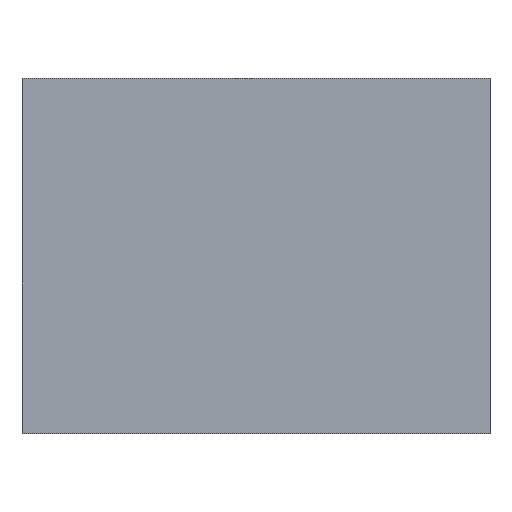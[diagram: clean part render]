
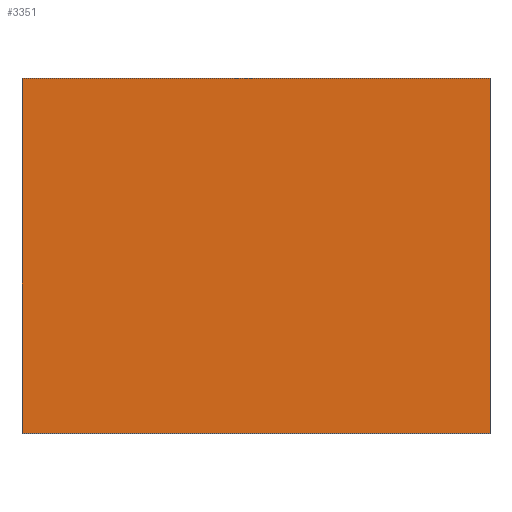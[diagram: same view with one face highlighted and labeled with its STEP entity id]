
A CAD part, top view. The second image highlights one B-rep face of the part: STEP entity #3351.
In plain terms, the highlighted planar face has unit normal (0, 0, 1).
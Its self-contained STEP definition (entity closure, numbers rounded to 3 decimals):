
#3215=CARTESIAN_POINT('Vertex',(103.5,78.5,27.)) ;
#3229=CARTESIAN_POINT('Vertex',(-103.5,78.5,27.)) ;
#3232=CARTESIAN_POINT('Line Origine',(0.,78.5,27.)) ;
#3260=CARTESIAN_POINT('Vertex',(-103.5,-78.5,27.)) ;
#3263=CARTESIAN_POINT('Line Origine',(-103.5,0.,27.)) ;
#3291=CARTESIAN_POINT('Vertex',(103.5,-78.5,27.)) ;
#3294=CARTESIAN_POINT('Line Origine',(0.,-78.5,27.)) ;
#3316=CARTESIAN_POINT('Line Origine',(103.5,0.,27.)) ;
#3340=CARTESIAN_POINT('Axis2P3D Location',(0.,0.,27.)) ;
#3233=DIRECTION('Vector Direction',(1.,0.,0.)) ;
#3264=DIRECTION('Vector Direction',(0.,1.,0.)) ;
#3295=DIRECTION('Vector Direction',(-1.,0.,0.)) ;
#3317=DIRECTION('Vector Direction',(0.,-1.,0.)) ;
#3341=DIRECTION('Axis2P3D Direction',(0.,0.,1.)) ;
#3342=DIRECTION('Axis2P3D XDirection',(1.,0.,0.)) ;
#3343=AXIS2_PLACEMENT_3D('Plane Axis2P3D',#3340,#3341,#3342) ;
#3346=ORIENTED_EDGE('',*,*,#3236,.T.) ;
#3347=ORIENTED_EDGE('',*,*,#3267,.T.) ;
#3348=ORIENTED_EDGE('',*,*,#3298,.T.) ;
#3349=ORIENTED_EDGE('',*,*,#3320,.T.) ;
#3234=VECTOR('Line Direction',#3233,1.) ;
#3265=VECTOR('Line Direction',#3264,1.) ;
#3296=VECTOR('Line Direction',#3295,1.) ;
#3318=VECTOR('Line Direction',#3317,1.) ;
#3351=ADVANCED_FACE('cavity',(#3350),#3344,.T.) ;
#3236=EDGE_CURVE('',#3216,#3230,#3235,.F.) ;
#3267=EDGE_CURVE('',#3230,#3261,#3266,.F.) ;
#3298=EDGE_CURVE('',#3261,#3292,#3297,.F.) ;
#3320=EDGE_CURVE('',#3292,#3216,#3319,.F.) ;
#3345=EDGE_LOOP('',(#3346,#3347,#3348,#3349)) ;
#3350=FACE_OUTER_BOUND('',#3345,.T.) ;
#3235=LINE('Line',#3232,#3234) ;
#3266=LINE('Line',#3263,#3265) ;
#3297=LINE('Line',#3294,#3296) ;
#3319=LINE('Line',#3316,#3318) ;
#3344=PLANE('Plane',#3343) ;
#3216=VERTEX_POINT('',#3215) ;
#3230=VERTEX_POINT('',#3229) ;
#3261=VERTEX_POINT('',#3260) ;
#3292=VERTEX_POINT('',#3291) ;
